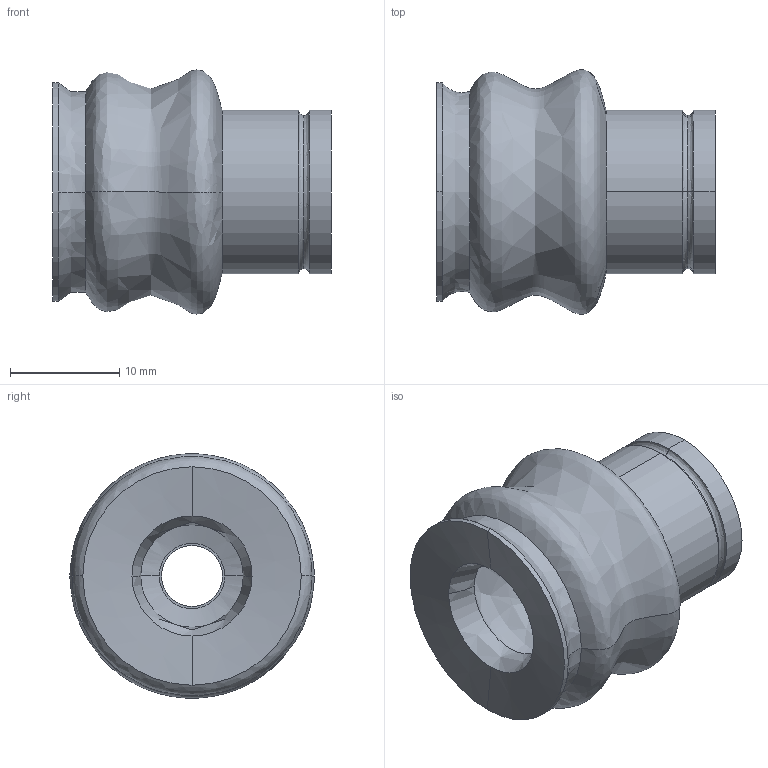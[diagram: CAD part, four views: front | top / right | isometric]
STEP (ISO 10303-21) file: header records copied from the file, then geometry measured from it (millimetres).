
FILE_DESCRIPTION (( 'STEP AP214' ), '1' );
FILE_NAME ('VSH-20R-3.STEP', '2019-11-14T01:58:23', ( '微软用户' ), ( '微软中国' ), 'SwSTEP 2.0', 'SolidWorks 2016', '' );
FILE_SCHEMA (( 'AUTOMOTIVE_DESIGN' ));
Length unit declared in the file: millimetre
Products named in the file (1): VSH-20R-3
Bounding box: 25.5 x 22.39 x 22.38 mm (x, y, z)
Volume: 4781.4 mm3; surface area: 3029.6 mm2
Topology: 1 solids, 1 shells, 30 faces, 66 edges, 40 vertices
Faces by surface type: cylinder 12, bspline 12, plane 4, cone 2
Entity records: 1010 total; most frequent: CARTESIAN_POINT 359, ORIENTED_EDGE 132, DIRECTION 128, EDGE_CURVE 66, AXIS2_PLACEMENT_3D 57, VERTEX_POINT 40, CIRCLE 38, EDGE_LOOP 34
